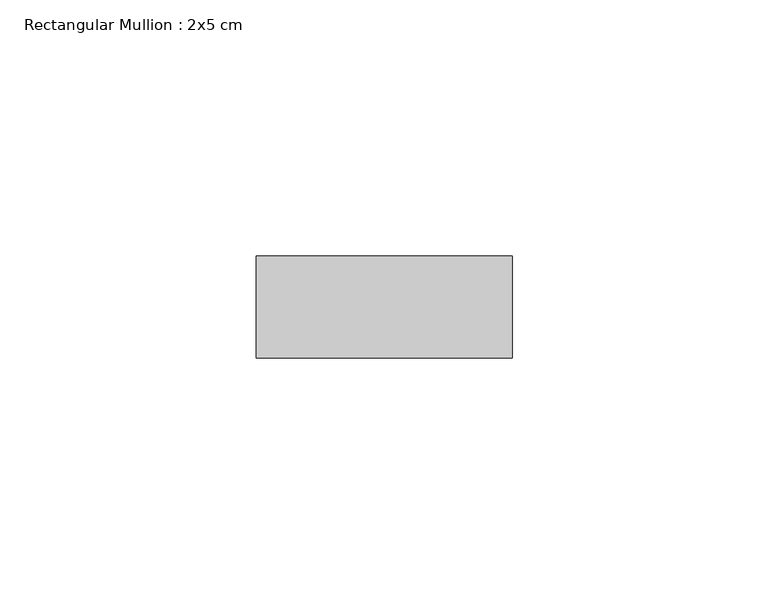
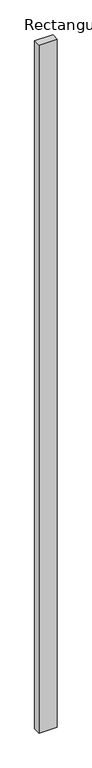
"""IFC4 building model written with IfcOpenShell, lengths in millimetres: member geometry, Rectangular Mullion : 2x5 cm."""

from ifc_helpers import new_model, si_unit, frame, origin, place, context, project, spatial, polyline, outline, extrude, source, transform, mapped, element, save


def rectangular_mullion_2x5_cm_531a251f(model_context):
    return source(origin(), model_context, "Body", "SweptSolid", [
        extrude(outline(polyline([(50.0, 20.0), (50.0, 0.0), (0.0, 0.0), (0.0, 20.0), (50.0, 20.0)])), frame((0.0, 0.0, -1986.7454413), z_axis=(0.0, 0.0, 1.0), x_axis=(1.0, 0.0, 0.0)), (0.0, 0.0, 1.0), 1986.7454413),
    ])


if __name__ == "__main__":
    model = new_model("IFC4")
    model_context = context("Model", 3, world=origin())
    ifc_project = project(units=[si_unit("LENGTHUNIT", "METRE", prefix="MILLI")], contexts=[model_context])
    site = spatial("IfcSite", under=ifc_project)
    building = spatial("IfcBuilding", under=site)
    placement = place(None, origin())
    rectangular_mullion_2x5_cm_shape = rectangular_mullion_2x5_cm_531a251f(model_context)
    element("IfcMember", 1, ObjectType="Rectangular Mullion : 2x5 cm", at=placement, inside=building, context=model_context, shape_type="MappedRepresentation", body=[
        mapped(rectangular_mullion_2x5_cm_shape, transform((0.0, 0.0, 0.0), x_axis=(1.0, 0.0, 0.0), y_axis=(0.0, 1.0, 0.0), z_axis=(0.0, 0.0, 1.0))),
    ])
    save(model, "model.ifc")
